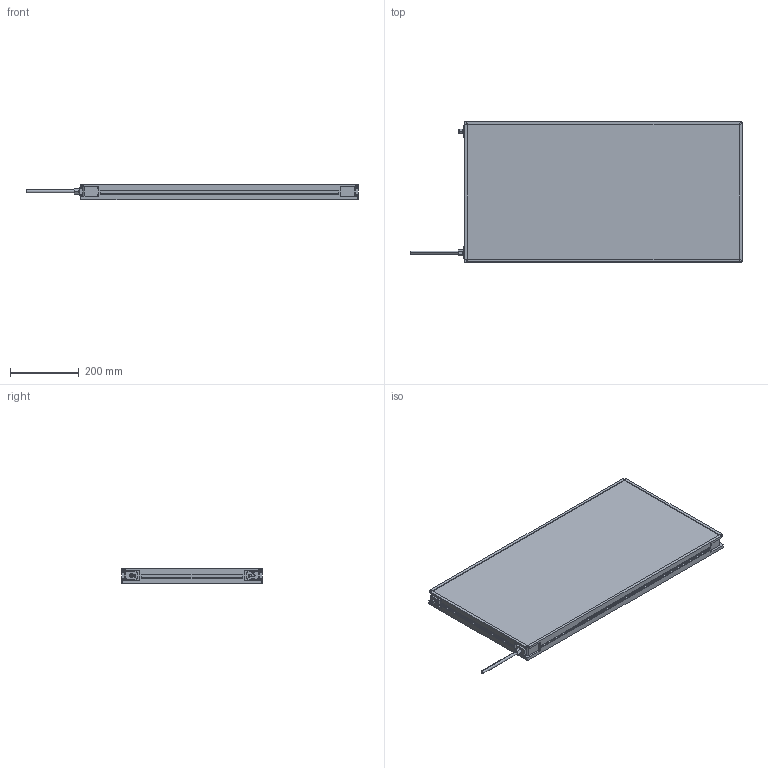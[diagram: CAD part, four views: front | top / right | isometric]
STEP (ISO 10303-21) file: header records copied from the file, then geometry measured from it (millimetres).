
FILE_DESCRIPTION (( 'STEP AP214' ), '1' );
FILE_NAME ('MBACK-xxxx-xxx-M1A2_CLIENT400x800.STEP', '2022-04-01T11:39:24', ( '' ), ( '' ), 'SwSTEP 2.0', 'SolidWorks 2020', '' );
FILE_SCHEMA (( 'AUTOMOTIVE_DESIGN' ));
Length unit declared in the file: millimetre
Products named in the file (1): MBACK-xxxx-xxx-M1A2_CLIENT400x800
Bounding box: 967.4 x 408 x 45.5 mm (x, y, z)
Volume: 13701448.9 mm3; surface area: 826712.8 mm2
Topology: 1 solids, 1 shells, 470 faces, 1210 edges, 804 vertices
Faces by surface type: plane 265, cylinder 117, bspline 80, cone 8
Entity records: 18046 total; most frequent: CARTESIAN_POINT 6837, ORIENTED_EDGE 2420, DIRECTION 2082, EDGE_CURVE 1210, VERTEX_POINT 804, LINE 800, VECTOR 800, AXIS2_PLACEMENT_3D 641
